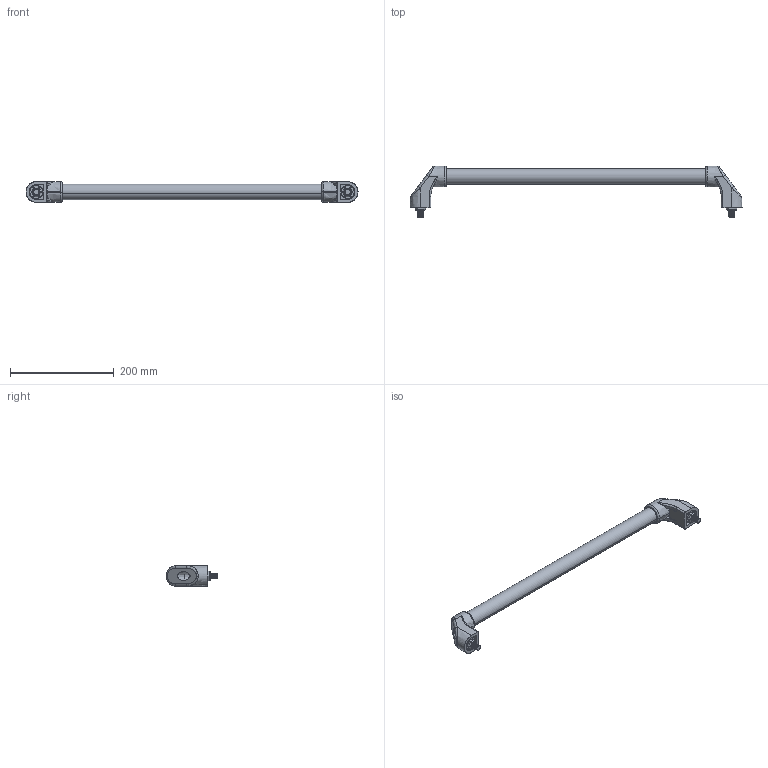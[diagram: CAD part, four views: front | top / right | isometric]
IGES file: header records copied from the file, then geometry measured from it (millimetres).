
Start section: SolidWorks IGES file using analytic representation for surfaces
Global section: file name: C:\Documents and Settings\Deathkiller\桌面\3D IGES\U型把手\MS-737-1-A\p=600.IGS; native system: SolidWorks 2006 by SolidWorks Corporation; preprocessor: SolidWorks 2006 by SolidWorks Corporation; author: Deathkiller; date: 080624.105035; units: millimetre
Bounding box: 640 x 99.5 x 40 mm (x, y, z)
Surface area: 143138.1 mm2 (no closed solid volume)
Topology: 0 solids, 0 shells, 318 faces, 6130 edges, 6114 vertices
Faces by surface type: revolution 210, bspline 108
